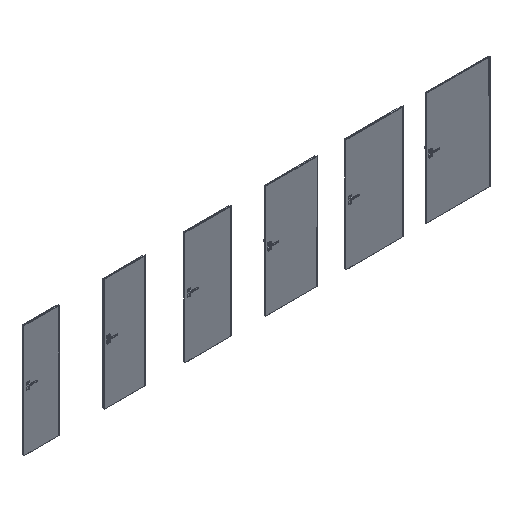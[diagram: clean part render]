
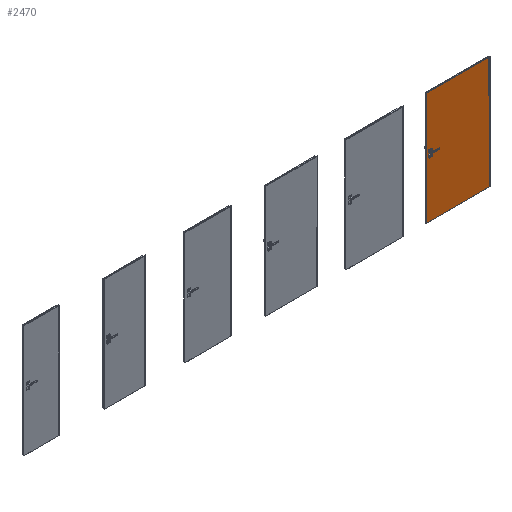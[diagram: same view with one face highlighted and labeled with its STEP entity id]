
A CAD part, isometric view. The second image highlights one B-rep face of the part: STEP entity #2470.
In plain terms, the highlighted planar face has unit normal (0, -1, 0).
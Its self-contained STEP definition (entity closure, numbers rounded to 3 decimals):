
#2470=ADVANCED_FACE('',(#3988),#3394,.F.);
#3394=PLANE('',#17351);
#3988=FACE_OUTER_BOUND('',#5032,.T.);
#5032=EDGE_LOOP('',(#7260,#7261,#7262,#7263));
#7260=ORIENTED_EDGE('',*,*,#12682,.T.);
#7261=ORIENTED_EDGE('',*,*,#12683,.T.);
#7262=ORIENTED_EDGE('',*,*,#12684,.F.);
#7263=ORIENTED_EDGE('',*,*,#12680,.F.);
#11008=VERTEX_POINT('',#26575);
#11009=VERTEX_POINT('',#26577);
#11010=VERTEX_POINT('',#26581);
#11011=VERTEX_POINT('',#26583);
#12680=EDGE_CURVE('',#11008,#11009,#14774,.T.);
#12682=EDGE_CURVE('',#11008,#11010,#14776,.T.);
#12683=EDGE_CURVE('',#11010,#11011,#14777,.T.);
#12684=EDGE_CURVE('',#11009,#11011,#14778,.T.);
#14774=LINE('',#26576,#16058);
#14776=LINE('',#26580,#16060);
#14777=LINE('',#26582,#16061);
#14778=LINE('',#26584,#16062);
#16058=VECTOR('',#19847,1.);
#16060=VECTOR('',#19851,1.);
#16061=VECTOR('',#19852,1.);
#16062=VECTOR('',#19853,1.);
#17351=AXIS2_PLACEMENT_3D('',#26585,#19854,#19855);
#19847=DIRECTION('',(1.,0.,0.));
#19851=DIRECTION('',(0.,0.,-1.));
#19852=DIRECTION('',(1.,0.,0.));
#19853=DIRECTION('',(0.,0.,-1.));
#19854=DIRECTION('',(0.,1.,0.));
#19855=DIRECTION('',(-1.,0.,0.));
#26575=CARTESIAN_POINT('',(6928.,-39.3,2030.));
#26576=CARTESIAN_POINT('',(7178.,-39.3,2030.));
#26577=CARTESIAN_POINT('',(8072.,-39.3,2030.));
#26580=CARTESIAN_POINT('',(6928.,-39.3,2030.));
#26581=CARTESIAN_POINT('',(6928.,-39.3,2.));
#26582=CARTESIAN_POINT('',(7178.,-39.3,2.));
#26583=CARTESIAN_POINT('',(8072.,-39.3,2.));
#26584=CARTESIAN_POINT('',(8072.,-39.3,2030.));
#26585=CARTESIAN_POINT('',(7178.,-39.3,2030.));
